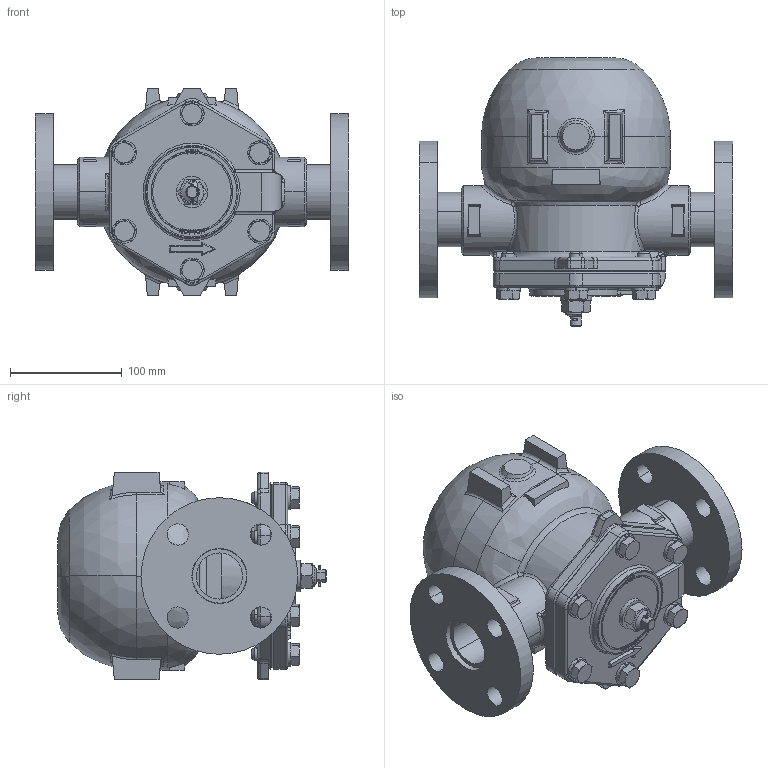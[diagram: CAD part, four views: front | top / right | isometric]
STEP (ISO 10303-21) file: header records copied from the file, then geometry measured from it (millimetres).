
FILE_DESCRIPTION( (''), '2;1');
FILE_NAME ('PC1027.12188.TSF-11SF JIS10KFF 40A_30080.stp','2025-07-31T10:26:02',(''),(''),'spGate 20.6.3 (****-****-****-****)','','');
FILE_SCHEMA (('AUTOMOTIVE_DESIGN'));
Length unit declared in the file: millimetre
Products named in the file (13): Assembly; SOP 10K 40A; CP_SUS_Q_Q''''_SUS304TP 40AxSch40x270_5126; 3D_@TSF-10_@_____s__; 3D_@TSF-10_@_Z_p_i_b_g; 3D_@TSF-10_@_J___[; 3D_@TSF-11_@________; ____; _R_b_N____; TSF-11SF JIS10KFF 40A_M1; SSLW12; ________; 3D TSF-11S 40A 本体(加)
Assembly tree (23 placements, depth 2):
  Assembly
    SOP 10K 40A  x2
    CP_SUS_Q_Q''''_SUS304TP 40AxSch40x270_5126
    3D_@TSF-10_@_____s__
    3D_@TSF-10_@_Z_p_i_b_g
    3D_@TSF-10_@_J___[
    3D_@TSF-11_@________
    ____
    _R_b_N____
    TSF-11SF JIS10KFF 40A_M1  x6
    SSLW12  x6
    ________
    3D TSF-11S 40A 本体(加)
Bounding box: 280 x 240 x 186 mm (x, y, z)
Volume: 4331415.3 mm3; surface area: 405781.2 mm2
Topology: 23 solids, 23 shells, 840 faces, 2845 edges, 2041 vertices
Faces by surface type: plane 352, bspline 244, cylinder 238, sphere 6
Entity records: 54001 total; most frequent: CARTESIAN_POINT 21467, ORIENTED_EDGE 4286, COLOUR_RGB 2831, PRESENTATION_STYLE_ASSIGNMENT 2831, STYLED_ITEM 2831, DIRECTION 2652, EDGE_CURVE 2143, DRAUGHTING_PRE_DEFINED_CURVE_FONT 2143
